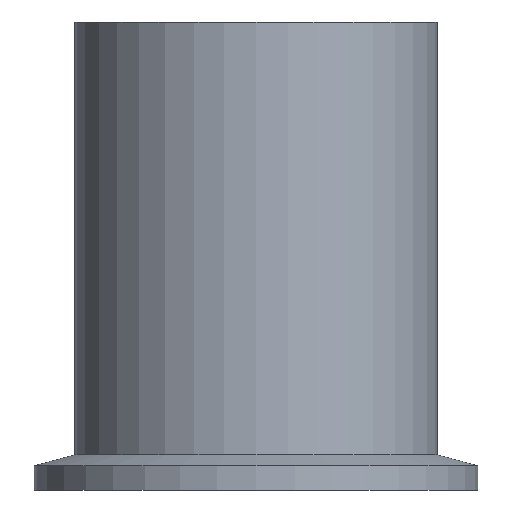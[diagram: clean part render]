
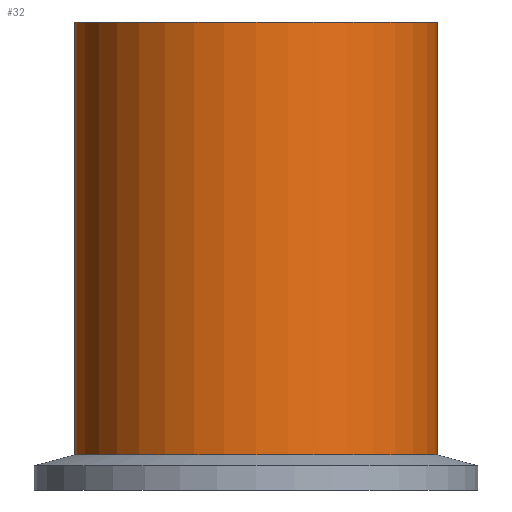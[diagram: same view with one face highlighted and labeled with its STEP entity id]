
A CAD part, front view. The second image highlights one B-rep face of the part: STEP entity #32.
In plain terms, the highlighted cylindrical face has radius 22.5 mm (diameter 45 mm), a full revolution.
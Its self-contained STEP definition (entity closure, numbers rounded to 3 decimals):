
#32 = ADVANCED_FACE( '', ( #65, #66 ), #67, .T. );
#65 = FACE_OUTER_BOUND( '', #104, .T. );
#66 = FACE_OUTER_BOUND( '', #105, .T. );
#67 = CYLINDRICAL_SURFACE( '', #106, 22.5 );
#104 = EDGE_LOOP( '', ( #137 ) );
#105 = EDGE_LOOP( '', ( #138 ) );
#106 = AXIS2_PLACEMENT_3D( '', #139, #140, #141 );
#137 = ORIENTED_EDGE( '', *, *, #185, .F. );
#138 = ORIENTED_EDGE( '', *, *, #186, .T. );
#139 = CARTESIAN_POINT( '', ( 0., 0., 54. ) );
#140 = DIRECTION( '', ( 0., 0., -1. ) );
#141 = DIRECTION( '', ( 1., 0., 0. ) );
#185 = EDGE_CURVE( '', #201, #201, #202, .T. );
#186 = EDGE_CURVE( '', #203, #203, #204, .T. );
#201 = VERTEX_POINT( '', #225 );
#202 = CIRCLE( '', #226, 22.5 );
#203 = VERTEX_POINT( '', #227 );
#204 = CIRCLE( '', #228, 22.5 );
#225 = CARTESIAN_POINT( '', ( 22.5, 0., 58. ) );
#226 = AXIS2_PLACEMENT_3D( '', #248, #249, #250 );
#227 = CARTESIAN_POINT( '', ( 22.5, 0., 4.34 ) );
#228 = AXIS2_PLACEMENT_3D( '', #251, #252, #253 );
#248 = CARTESIAN_POINT( '', ( 0., 0., 58. ) );
#249 = DIRECTION( '', ( 0., 0., 1. ) );
#250 = DIRECTION( '', ( 1., 0., 0. ) );
#251 = CARTESIAN_POINT( '', ( 0., 0., 4.34 ) );
#252 = DIRECTION( '', ( 0., 0., 1. ) );
#253 = DIRECTION( '', ( 1., 0., 0. ) );
